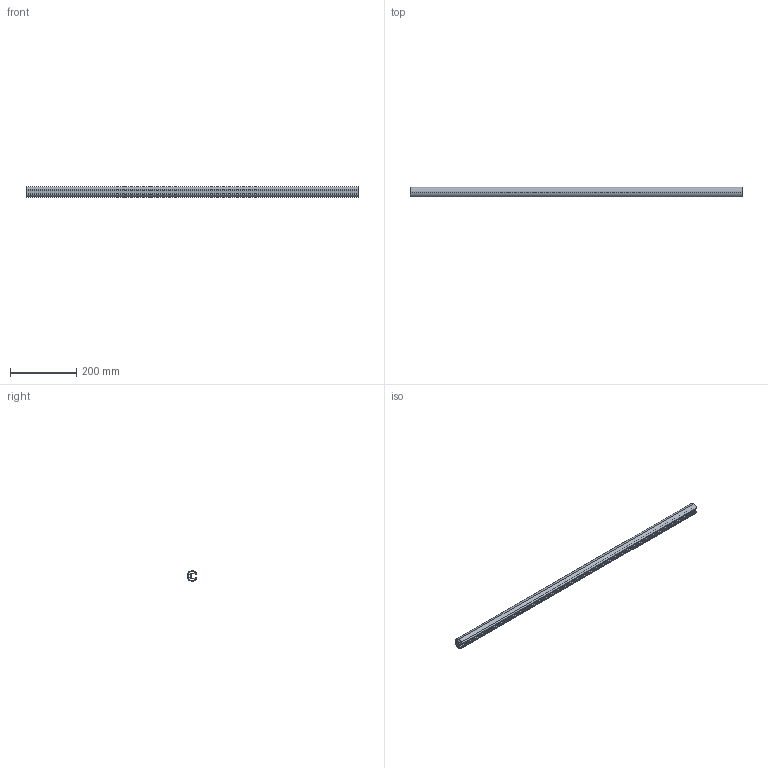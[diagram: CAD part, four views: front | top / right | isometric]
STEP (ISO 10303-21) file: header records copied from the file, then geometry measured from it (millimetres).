
FILE_DESCRIPTION (( 'STEP AP214' ), '1' );
FILE_NAME ('1.0091 Kahvaprofiili 32 musta 1000mm.STEP', '2025-09-02T08:47:03', ( '' ), ( '' ), 'SwSTEP 2.0', 'SolidWorks 2025', '' );
FILE_SCHEMA (( 'AUTOMOTIVE_DESIGN' ));
Length unit declared in the file: millimetre
Products named in the file (1): 1.0091 Kahvaprofiili 32 musta 1000mm
Bounding box: 1000 x 30 x 32 mm (x, y, z)
Volume: 342863.2 mm3; surface area: 271207.7 mm2
Topology: 1 solids, 1 shells, 73 faces, 213 edges, 142 vertices
Faces by surface type: cylinder 42, plane 31
Entity records: 2486 total; most frequent: DIRECTION 445, CARTESIAN_POINT 429, ORIENTED_EDGE 426, EDGE_CURVE 213, AXIS2_PLACEMENT_3D 158, VERTEX_POINT 142, VECTOR 129, LINE 129
